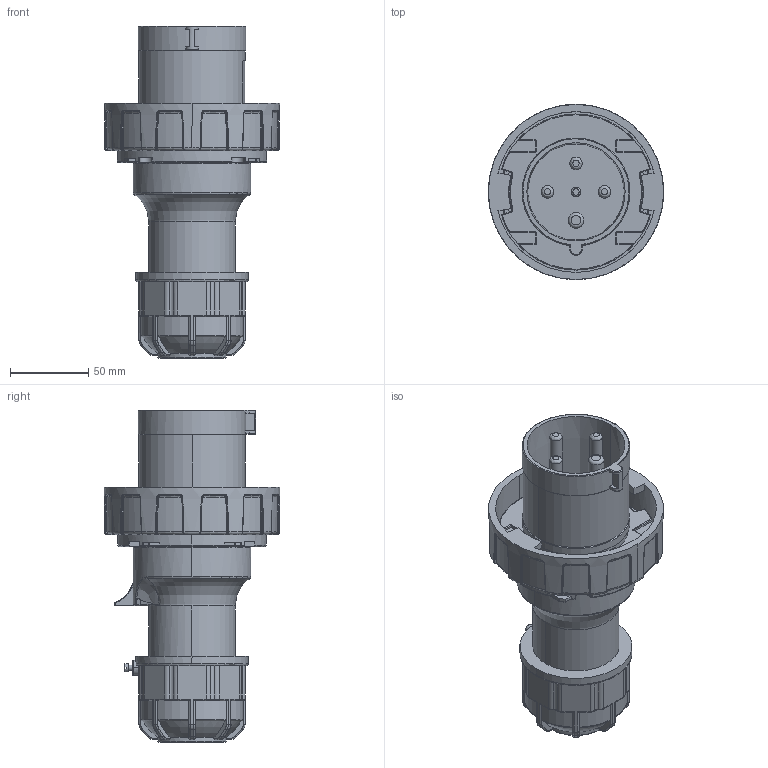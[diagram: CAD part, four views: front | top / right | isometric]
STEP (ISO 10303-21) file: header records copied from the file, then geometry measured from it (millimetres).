
FILE_DESCRIPTION(('FreeCAD Model'),'2;1');
FILE_NAME('Open CASCADE Shape Model','2026-02-04T09:53:27',(''),(''), 'Open CASCADE STEP processor 7.8','FreeCAD','Unknown');
FILE_SCHEMA(('AUTOMOTIVE_DESIGN { 1 0 10303 214 1 1 1 1 }'));
Length unit declared in the file: millimetre
Products named in the file (11): TL3P63643; Encaixe tomada; Tomada; Pino L3; Pino Terra; Pino L2; Pino L1; Pino guia; Prensa cabo; Parafuso prensa cabo; Estrutura corpo
Assembly tree (10 placements, depth 2):
  TL3P63643
    Encaixe tomada
    Tomada
    Pino L3
    Pino Terra
    Pino L2
    Pino L1
    Pino guia
    Prensa cabo
    Parafuso prensa cabo
    Estrutura corpo
Bounding box: 112.2 x 112.2 x 212.7 mm (x, y, z)
Volume: 392793.5 mm3; surface area: 166570 mm2
Topology: 10 solids, 11 shells, 1201 faces, 3014 edges, 1836 vertices
Faces by surface type: cylinder 416, plane 335, bspline 217, torus 173, cone 38, sphere 20, extrusion 2
Full cylindrical faces by diameter (mm): 3.5 x1, 5.3 x1, 6 x1, 8 x3, 10 x1, 14.5 x1, 74 x1
Entity records: 47812 total; most frequent: CARTESIAN_POINT 20819, ORIENTED_EDGE 5980, DIRECTION 5167, EDGE_CURVE 2990, AXIS2_PLACEMENT_3D 2109, VERTEX_POINT 1836, FACE_BOUND 1230, EDGE_LOOP 1230
